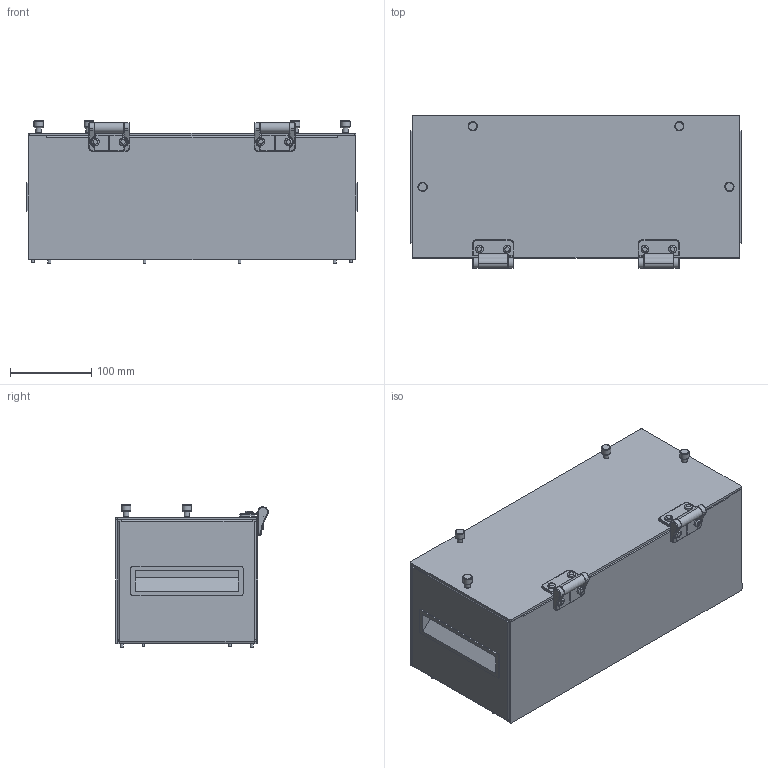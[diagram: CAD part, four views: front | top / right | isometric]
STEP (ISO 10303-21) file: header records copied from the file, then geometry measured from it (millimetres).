
FILE_DESCRIPTION((''),'2;1');
FILE_NAME('C:\old_Drawings\shrinkwrapped website .stp files\561499-STP.stp','2011-06-24T08:43:56',('GaryRobinson'),(''),'Autodesk Inventor 2011','Autodesk Inventor 2011','');
FILE_SCHEMA(('CONFIG_CONTROL_DESIGN'));
Length unit declared in the file: inch
Products named in the file (1): 561499-STP
Bounding box: 406.04 x 187.33 x 175.9 mm (x, y, z)
Surface area: 578782.4 mm2 (no closed solid volume)
Topology: 0 solids, 100 shells, 355 faces, 1340 edges, 1023 vertices
Faces by surface type: plane 176, cylinder 129, torus 26, bspline 24
Full cylindrical faces by diameter (mm): 0.025 x2, 3.505 x15, 5.74 x8, 6.858 x4, 7.112 x8, 8.636 x4, 9.473 x8, 11.43 x4
Entity records: 18441 total; most frequent: CARTESIAN_POINT 6945, DIRECTION 2233, ORIENTED_EDGE 1664, EDGE_CURVE 1264, VERTEX_POINT 1018, AXIS2_PLACEMENT_3D 803, VECTOR 627, LINE 627
